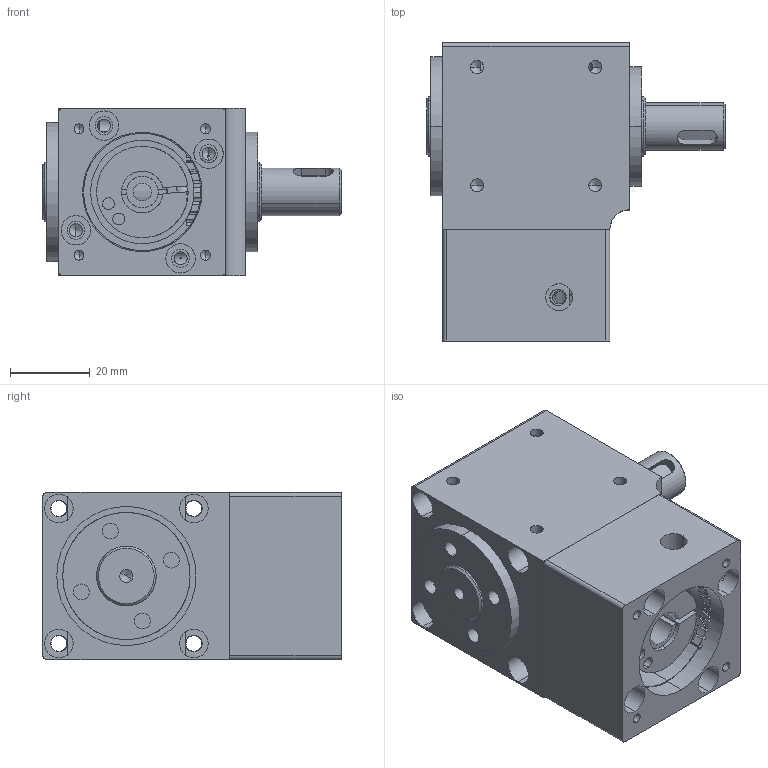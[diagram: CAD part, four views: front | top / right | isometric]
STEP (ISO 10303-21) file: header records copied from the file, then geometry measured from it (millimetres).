
FILE_DESCRIPTION (( 'STEP AP203' ), '1' );
FILE_NAME ('PVFD040-L183045.STEP', '2021-08-30T03:21:01', ( 'Windows User' ), ( 'P R C' ), 'SwSTEP 2.0', 'SolidWorks 2016', '' );
FILE_SCHEMA (( 'CONFIG_CONTROL_DESIGN' ));
Length unit declared in the file: millimetre
Products named in the file (11): deep groove ball bearings gb_Rolling bearings 6001 GB 276-94; deep groove ball bearings gb_Rolling bearings 6002 GB 276-94; 褲极; deep groove ball bearings gb_Rolling bearings 61902 GB 276-94; 怀堤粣ㄗ等粣ㄘ; PVFD040-L183045; 输入轴; 蹟譫; 蹟譫ㄗ2ㄘ; 標杶ㄗ1ㄘ; 綴楊擘ㄗ侂狟100Wㄘ
Assembly tree (10 placements, depth 2):
  PVFD040-L183045
    褲极
    怀堤粣ㄗ等粣ㄘ
    输入轴
    蹟譫
    蹟譫ㄗ2ㄘ
    標杶ㄗ1ㄘ
    綴楊擘ㄗ侂狟100Wㄘ
    deep groove ball bearings gb_Rolling bearings 6001 GB 276-94
    deep groove ball bearings gb_Rolling bearings 6002 GB 276-94
    deep groove ball bearings gb_Rolling bearings 61902 GB 276-94
Bounding box: 75 x 75 x 42 mm (x, y, z)
Volume: 101839.9 mm3; surface area: 58539.8 mm2
Topology: 26 solids, 26 shells, 1321 faces, 3954 edges, 2582 vertices
Faces by surface type: plane 564, bspline 419, cylinder 268, cone 70
Entity records: 57349 total; most frequent: CARTESIAN_POINT 23298, ORIENTED_EDGE 7824, DIRECTION 5684, EDGE_CURVE 3912, VERTEX_POINT 2582, AXIS2_PLACEMENT_3D 2038, LINE 1608, VECTOR 1608
